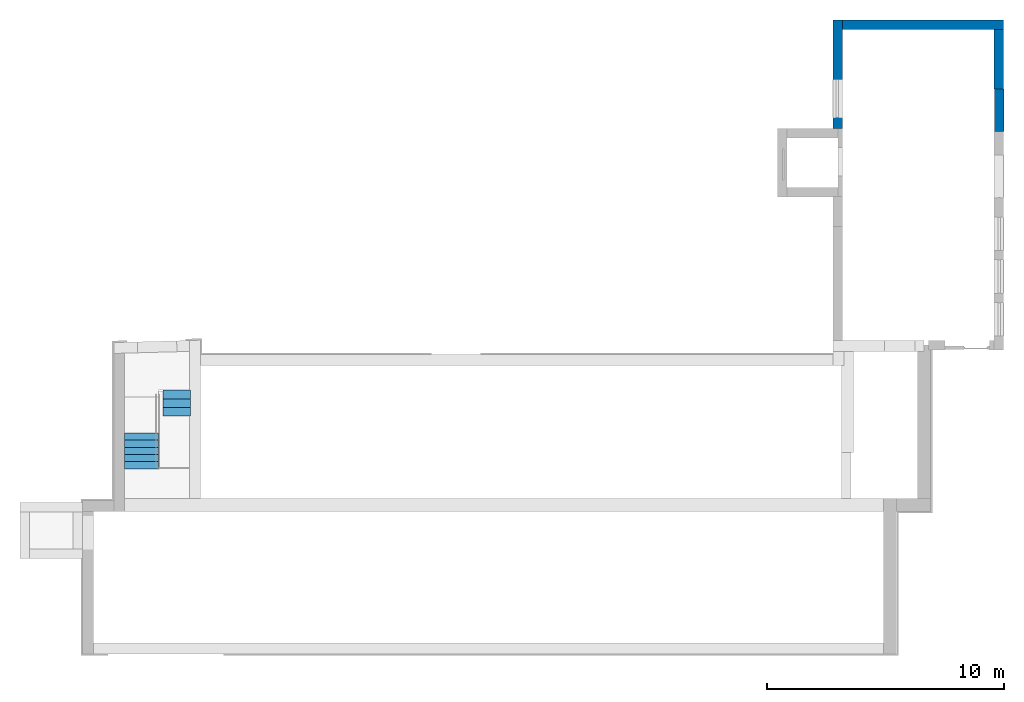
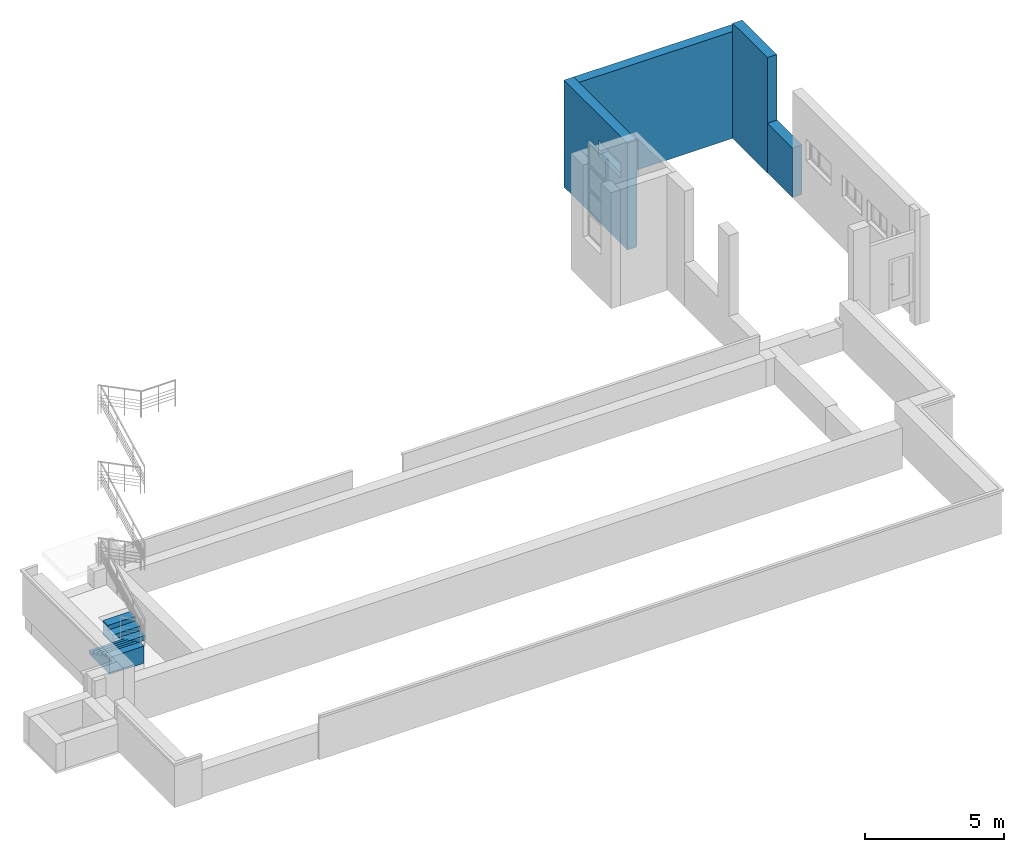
# One storey, part 4 of 6: 4 walls, 2 stairs, 1 opening, 2 elements without a shape of their own.
"""IFC2X3 building model written with IfcOpenShell, lengths in millimetres."""

from ifc_helpers import new_model, entity, si_unit, converted_unit, derived_unit, direction, frame, frame_2d, origin, place, context, subcontext, project, spatial, polyline, rectangle, outline, extrude, clip, bounded_halfspace, faceted_brep, material, layer, layer_set, layer_usage, type_object, element, aggregate, save


model = new_model("IFC2X3")

# Units and contexts
model_context = context("Model", 3, precision=0.01, world=origin(), true_north=direction((6.12303176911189e-17, 1.0)))
body_context = subcontext(model_context, "Body", "Model", "MODEL_VIEW")
ifc_project = project(units=[si_unit("LENGTHUNIT", "METRE", prefix="MILLI"), si_unit("AREAUNIT", "SQUARE_METRE"), si_unit("VOLUMEUNIT", "CUBIC_METRE"), converted_unit("PLANEANGLEUNIT", "DEGREE", entity("IfcRatioMeasure", 0.0174532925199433), si_unit("PLANEANGLEUNIT", "RADIAN"), dimensions=[0, 0, 0, 0, 0, 0, 0]), si_unit("MASSUNIT", "GRAM", prefix="KILO"), derived_unit("MASSDENSITYUNIT", [(si_unit("MASSUNIT", "GRAM", prefix="KILO"), 1), (si_unit("LENGTHUNIT", "METRE"), -3)]), si_unit("TIMEUNIT", "SECOND"), si_unit("FREQUENCYUNIT", "HERTZ"), si_unit("THERMODYNAMICTEMPERATUREUNIT", "DEGREE_CELSIUS"), derived_unit("THERMALTRANSMITTANCEUNIT", [(si_unit("MASSUNIT", "GRAM", prefix="KILO"), 1), (si_unit("THERMODYNAMICTEMPERATUREUNIT", "KELVIN"), -1), (si_unit("TIMEUNIT", "SECOND"), -3)]), derived_unit("VOLUMETRICFLOWRATEUNIT", [(si_unit("LENGTHUNIT", "METRE"), 3), (si_unit("TIMEUNIT", "SECOND"), -1)]), si_unit("ELECTRICCURRENTUNIT", "AMPERE"), si_unit("ELECTRICVOLTAGEUNIT", "VOLT"), si_unit("POWERUNIT", "WATT"), si_unit("FORCEUNIT", "NEWTON", prefix="KILO"), si_unit("ILLUMINANCEUNIT", "LUX"), si_unit("LUMINOUSFLUXUNIT", "LUMEN"), si_unit("LUMINOUSINTENSITYUNIT", "CANDELA"), derived_unit("USERDEFINED", [(si_unit("MASSUNIT", "GRAM", prefix="KILO"), -1), (si_unit("LENGTHUNIT", "METRE"), -2), (si_unit("TIMEUNIT", "SECOND"), 3), (si_unit("LUMINOUSFLUXUNIT", "LUMEN"), 1)]), derived_unit("LINEARVELOCITYUNIT", [(si_unit("LENGTHUNIT", "METRE"), 1), (si_unit("TIMEUNIT", "SECOND"), -1)]), si_unit("PRESSUREUNIT", "PASCAL"), derived_unit("USERDEFINED", [(si_unit("LENGTHUNIT", "METRE"), -2), (si_unit("MASSUNIT", "GRAM", prefix="KILO"), 1), (si_unit("TIMEUNIT", "SECOND"), -2)])], contexts=[model_context])

# Site, building, storey
site_placement = place(None, frame((-151.875543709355, 2715.0, 0.0)))
site = spatial("IfcSite", under=ifc_project, at=site_placement, Name="Surface", CompositionType="ELEMENT")
building_placement = place(site_placement, origin())
building = spatial("IfcBuilding", under=site, at=building_placement, CompositionType="ELEMENT")
storey_placement = place(building_placement, frame((0.0, 0.0, -1200.0)))
storey = spatial("IfcBuildingStorey", under=building, at=storey_placement, Name="Vundament", CompositionType="ELEMENT", Elevation=-1199.99999999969)

# Walls
ifc_material_1 = material(Name="__Tuuletõkkeplaat")
ifc_layer_1 = layer(ifc_material_1, 9.0)
ifc_material_2 = material(Name="__Soojustus EPS")
ifc_layer_2 = layer(ifc_material_2, 200.0)
ifc_material_3 = material(Name="__Kergblokk")
ifc_layer_3 = layer(ifc_material_3, 190.0)
ifc_layer_set = layer_set([ifc_layer_1, ifc_layer_2, ifc_layer_3], Name="Basic Wall:VS-2.2_Juurdeehituse välissein")
ifc_layer_usage_1 = layer_usage(ifc_layer_set, "AXIS2", "NEGATIVE", 199.5)
wall_type = type_object("IfcWallType", Name="Basic Wall:VS-2.2_Juurdeehituse välissein", PredefinedType="STANDARD", material=ifc_layer_set)
wall_1_placement = place(storey_placement, frame((32001.6162682, 26509.5000265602, 0.0)))
element("IfcWallStandardCase", 1, at=wall_1_placement, inside=storey, type_object=wall_type, material=ifc_layer_usage_1, Name="Basic Wall:VS-2.2_Juurdeehituse välissein", ObjectType="Basic Wall:VS-2.2_Juurdeehituse välissein", context=body_context, shape_type="Clipping", body=[
    clip(extrude(rectangle(XDim=6793.99999999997, YDim=398.999999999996, at=frame_2d((3396.99999999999, 0.0), x_axis=(-1.0, 0.0))), origin(), (0.0, 0.0, 1.0), 4705.00000000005), bounded_halfspace(frame((0.0, -199.500000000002, 4705.0), z_axis=(0.0, 0.0, -1.0), x_axis=(0.0, -1.0, 0.0)), True, frame((0.0, -199.500000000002, 4705.0)), polyline([(0.0, 0.0), (1200.0, 0.0), (1360.0, 0.0), (5279.0, 0.0), (5395.0, 0.0), (6395.0, 0.0), (6395.0, 247.999973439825), (0.0, 247.999973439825), (0.0, 0.0)]))),
])
ifc_layer_usage_2 = layer_usage(ifc_layer_set, "AXIS2", "NEGATIVE", 199.5)
wall_2_placement = place(storey_placement, frame((38596.1162682, 26310.0, 0.0), z_axis=(0.0, 0.0, 1.0), x_axis=(0.0, -1.0, 0.0)))
element("IfcWallStandardCase", 2, at=wall_2_placement, inside=storey, type_object=wall_type, material=ifc_layer_usage_2, Name="Basic Wall:VS-2.2_Juurdeehituse välissein", ObjectType="Basic Wall:VS-2.2_Juurdeehituse välissein", context=body_context, shape_type="SweptSolid", body=[
    extrude(rectangle(XDim=2500.00002656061, YDim=398.999999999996, at=frame_2d((1250.0000132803, 0.0), x_axis=(-1.0, 0.0))), origin(), (0.0, 0.0, 1.0), 5075.0),
])

# Wall, opening
ifc_layer_usage_3 = layer_usage(ifc_layer_set, "AXIS2", "NEGATIVE", 199.5)
wall_3_placement = place(storey_placement, frame((31802.1162682, 22130.0, 0.0), z_axis=(0.0, 0.0, 1.0), x_axis=(0.0, 1.0, 0.0)))
wall_3 = element("IfcWallStandardCase", 3, at=wall_3_placement, inside=storey, type_object=wall_type, material=ifc_layer_usage_3, Name="Basic Wall:VS-2.2_Juurdeehituse välissein", ObjectType="Basic Wall:VS-2.2_Juurdeehituse välissein", context=body_context, shape_type="Clipping", body=[
    clip(extrude(rectangle(XDim=4579.00002639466, YDim=398.999999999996, at=frame_2d((2289.50001319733, 2.1316282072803e-13), x_axis=(-1.0, 0.0))), origin(), (0.0, 0.0, 1.0), 4705.00000000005), bounded_halfspace(frame((0.0, -199.500000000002, 4705.0), z_axis=(0.0, 0.0, -1.0), x_axis=(-1.0, 0.0, 0.0)), True, frame((0.0, -199.500000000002, 4705.0)), polyline([(0.0, 0.0), (4180.00002639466, 0.0), (4428.0, 0.0), (4428.0, 190.0), (0.0, 190.0), (0.0, 0.0)]))),
])
opening_placement = place(wall_3_placement, frame((460.236801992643, 699.500000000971, 2653.22079023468), z_axis=(0.0, 0.0, 1.0), x_axis=(0.0, -1.0, 0.0)))
element("IfcOpeningElement", 4, at=opening_placement, cuts=wall_3, Name="Basic Wall:VS-2.2_Juurdeehituse välissein", ObjectType="Opening", context=body_context, shape_type="Brep", body=[
    faceted_brep([(0.0, 1620.0, 906.779209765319), (0.0, 0.0, 906.779209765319), (1399.0, 0.0, 906.779209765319), (1399.0, 1620.0, 906.779209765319), (615.0, 0.0, 286.779209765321), (615.0, 1620.0, 286.779209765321), (1399.0, 1620.0, 286.779209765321), (1399.0, 0.0, 286.779209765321), (0.0, 1620.0, 0.0), (0.0, 0.0, 0.0)], [[[0, 1, 2, 3]], [[4, 5, 6, 7]], [[0, 3, 6, 5, 8]], [[2, 1, 9, 4, 7]], [[1, 0, 8, 9]], [[8, 5, 4, 9]], [[3, 2, 7, 6]]]),
])

# Wall
ifc_layer_usage_4 = layer_usage(ifc_layer_set, "AXIS2", "NEGATIVE", 199.5)
wall_4_placement = place(storey_placement, frame((38606.1162682, 23810.0, 0.0), z_axis=(0.0, 0.0, 1.0), x_axis=(0.0, -1.0, 0.0)))
element("IfcWallStandardCase", 5, at=wall_4_placement, inside=storey, type_object=wall_type, material=ifc_layer_usage_4, Name="Basic Wall:VS-2.2_Juurdeehituse välissein", ObjectType="Basic Wall:VS-2.2_Juurdeehituse välissein", context=body_context, shape_type="SweptSolid", body=[
    extrude(rectangle(XDim=1800.0, YDim=398.999999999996, at=frame_2d((900.000000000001, 0.0), x_axis=(-1.0, 0.0))), origin(), (0.0, 0.0, 1.0), 2180.00000000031),
])

# Stairs
stair_1_placement = place(storey_placement, origin())
stair_1 = element("IfcStair", 6, at=stair_1_placement, inside=storey, ShapeType="NOTDEFINED")
ifc_material_4 = material(Name="Paint - Sand Beige")
stair_2_placement = place(stair_1_placement, origin())
stair_2 = element("IfcStair", 7, at=stair_2_placement, material=ifc_material_4, Name="TR KONSTRUKTSIOON - 001 44406:TR KONSTRUKTSIOON - 001 44406", ObjectType="TR KONSTRUKTSIOON - 001 44406:TR KONSTRUKTSIOON - 001 44406", ShapeType="NOTDEFINED", context=body_context, shape_type="SweptSolid", body=[
    extrude(rectangle(XDim=301.794433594, YDim=1433.796443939, at=frame_2d((-5.54223333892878e-13, -1.13686837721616e-13), x_axis=(1.0, 0.0))), frame((2486.8982219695, 7950.118255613, 1160.0), z_axis=(0.0, 0.0, 1.0), x_axis=(0.0, 1.0, 0.0)), (0.0, 0.0, 1.0), 40.0),
    extrude(rectangle(XDim=341.794426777, YDim=1433.796443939, at=frame_2d((5.40012479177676e-13, -1.13686837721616e-13), x_axis=(1.0, 0.0))), frame((2486.8982219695, 8231.9126926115, 1009.16715621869), z_axis=(0.0, 0.0, 1.0), x_axis=(0.0, 1.0, 0.0)), (0.0, 0.0, 1.0), 40.0),
    extrude(rectangle(XDim=341.794426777, YDim=1433.796443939, at=frame_2d((5.40012479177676e-13, -1.13686837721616e-13), x_axis=(1.0, 0.0))), frame((2486.8982219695, 8533.7071262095, 858.33431243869), z_axis=(0.0, 0.0, 1.0), x_axis=(0.0, 1.0, 0.0)), (0.0, 0.0, 1.0), 40.0),
    extrude(rectangle(XDim=341.794426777, YDim=1433.796443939, at=frame_2d((5.40012479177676e-13, -1.13686837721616e-13), x_axis=(1.0, 0.0))), frame((2486.8982219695, 8835.5015598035, 707.50146865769), z_axis=(0.0, 0.0, 1.0), x_axis=(0.0, 1.0, 0.0)), (0.0, 0.0, 1.0), 40.0),
    extrude(rectangle(XDim=341.794426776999, YDim=1433.796443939, at=frame_2d((0.0, -1.13686837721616e-13), x_axis=(1.0, 0.0))), frame((2486.8982219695, 9137.2959933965, 556.66862487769), z_axis=(0.0, 0.0, 1.0), x_axis=(0.0, 1.0, 0.0)), (0.0, 0.0, 1.0), 40.0),
    extrude(outline(polyline([(157.563883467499, 219.582599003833), (157.563883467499, 68.7497552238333), (-144.230550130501, 68.7497552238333), (-144.230550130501, -82.0830885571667), (-446.024983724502, -82.0830885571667), (-446.024983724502, -232.915932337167), (-747.8194173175, -232.915932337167), (-747.8194173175, -343.748776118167), (721.152750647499, -343.748776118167), (721.152750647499, 370.415442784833), (459.358317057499, 370.415442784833), (459.358317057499, 219.582599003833), (157.563883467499, 219.582599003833)])), frame((1770.0, 8520.3737894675, 789.584557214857), z_axis=(-1.0, 0.0, 0.0), x_axis=(0.0, -1.0, 0.0)), (0.0, 0.0, -1.0), 1433.79644394),
])
aggregate(stair_1, [stair_2])

stair_3_placement = place(storey_placement, origin())
stair_3 = element("IfcStair", 8, at=stair_3_placement, inside=storey, ShapeType="NOTDEFINED")
stair_4_placement = place(stair_3_placement, origin())
stair_4 = element("IfcStair", 9, at=stair_4_placement, material=ifc_material_4, Name="TR KONSTRUKTSIOON - 001 45625:TR KONSTRUKTSIOON - 001 45625", ObjectType="TR KONSTRUKTSIOON - 001 45625:TR KONSTRUKTSIOON - 001 45625", ShapeType="NOTDEFINED", context=body_context, shape_type="SweptSolid", body=[
    extrude(outline(polyline([(98.2196807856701, -541.704516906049), (305.340957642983, -541.704516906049), (305.340957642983, 544.864082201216), (-301.780319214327, 544.864082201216), (-301.780319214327, 178.46179543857), (-101.780319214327, 178.461795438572), (-101.780319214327, -181.621360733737), (98.2196807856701, -181.621360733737), (98.2196807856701, -541.704516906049)])), frame((3393.60743708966, 10569.4375660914, -55.9445381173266), z_axis=(0.999999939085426, 0.000349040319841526, 0.0), x_axis=(0.0, 0.0, -1.0)), (0.0, 0.0, 1.0), 1146.88804543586),
])
aggregate(stair_3, [stair_4])

save(model, "model.ifc")
